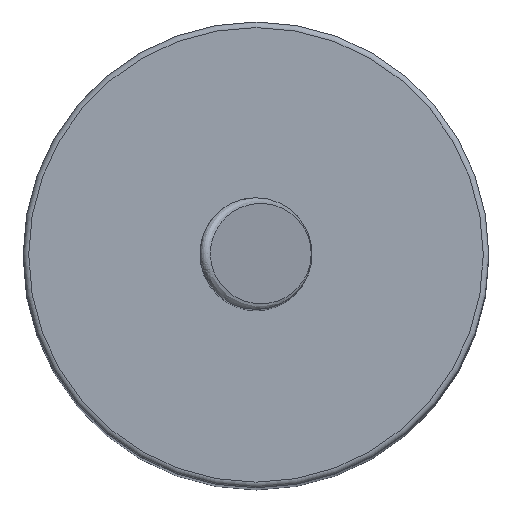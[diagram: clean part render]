
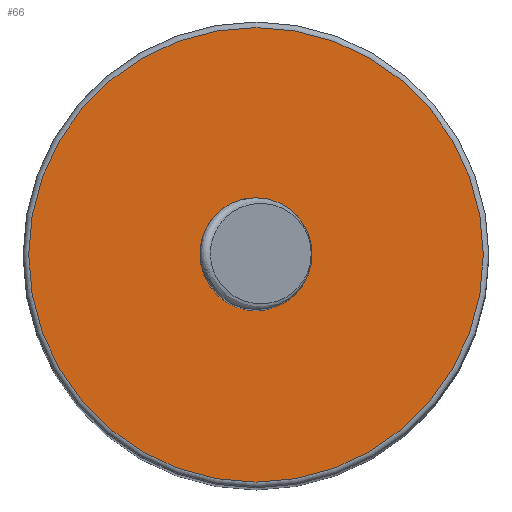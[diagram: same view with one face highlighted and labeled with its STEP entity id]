
A CAD part, top view. The second image highlights one B-rep face of the part: STEP entity #66.
In plain terms, the highlighted planar face has unit normal (0, 0, 1).
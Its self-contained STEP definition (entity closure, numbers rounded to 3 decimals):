
#66=ADVANCED_FACE('',(#190,#192),#194,.T.);
#190=FACE_BOUND('',#191,.T.);
#191=EDGE_LOOP('',(#643));
#192=FACE_BOUND('',#193,.T.);
#193=EDGE_LOOP('',(#644));
#194=PLANE('',#195);
#195=AXIS2_PLACEMENT_3D('',#196,#197,#198);
#196=CARTESIAN_POINT('',(0.,0.,232.));
#197=DIRECTION('',(0.,0.,1.));
#198=DIRECTION('',(-1.,0.,0.));
#643=ORIENTED_EDGE('',*,*,#669,.F.);
#644=ORIENTED_EDGE('',*,*,#667,.T.);
#667=EDGE_CURVE('',#681,#681,#682,.T.);
#669=EDGE_CURVE('',#685,#685,#686,.T.);
#681=VERTEX_POINT('',#713);
#682=CIRCLE('',#714,10.);
#685=VERTEX_POINT('',#726);
#686=CIRCLE('',#727,40.65);
#713=CARTESIAN_POINT('',(-10.,0.,232.));
#714=AXIS2_PLACEMENT_3D('',#715,#716,#717);
#715=CARTESIAN_POINT('',(0.,0.,232.));
#716=DIRECTION('',(0.,0.,-1.));
#717=DIRECTION('',(-1.,0.,0.));
#726=CARTESIAN_POINT('',(-40.65,0.,232.));
#727=AXIS2_PLACEMENT_3D('',#728,#729,#730);
#728=CARTESIAN_POINT('',(0.,0.,232.));
#729=DIRECTION('',(0.,0.,-1.));
#730=DIRECTION('',(-1.,0.,0.));
